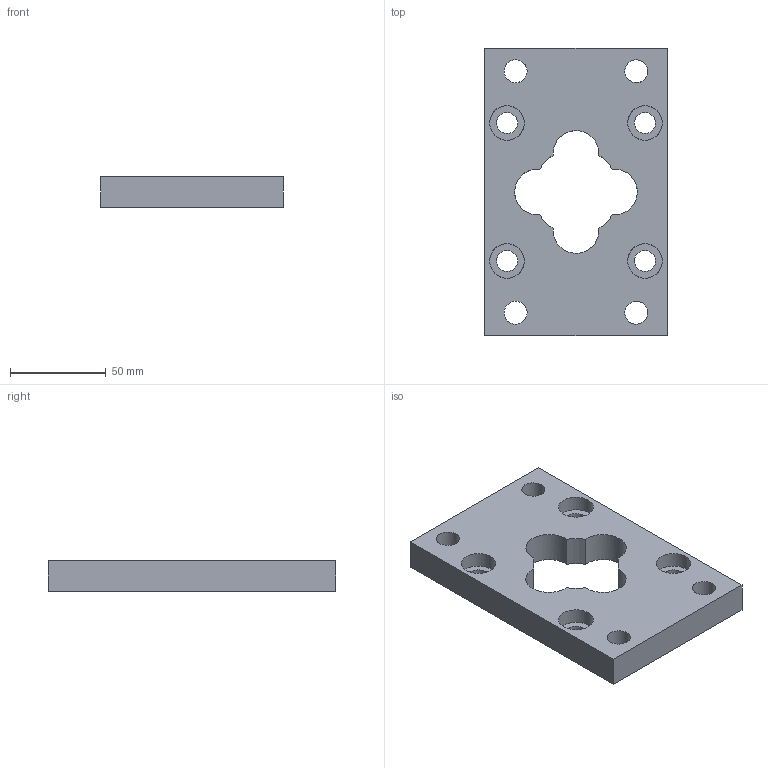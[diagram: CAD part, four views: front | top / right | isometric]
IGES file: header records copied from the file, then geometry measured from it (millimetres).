
Global section: file name: 1325_080_03F; native system: Autodesk Inventor 2014; preprocessor: unknown; author: A. Manieri; organization: Pneumax S.p.A.; date: 20161007.115420; units: millimetre
Bounding box: 95 x 150 x 16 mm (x, y, z)
Volume: 171743.3 mm3; surface area: 38468.5 mm2
Topology: 1 solids, 1 shells, 30 faces, 80 edges, 56 vertices
Faces by surface type: bspline 30
